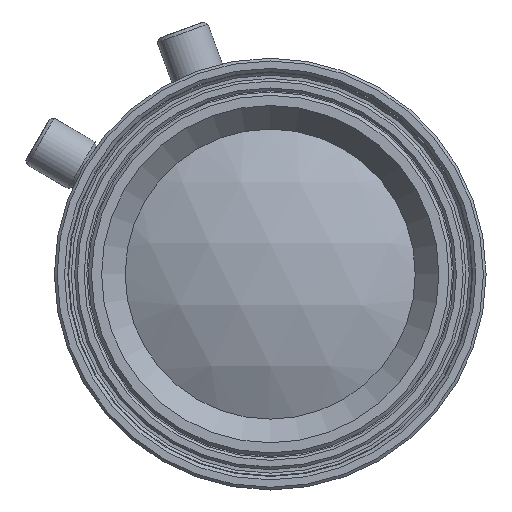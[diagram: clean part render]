
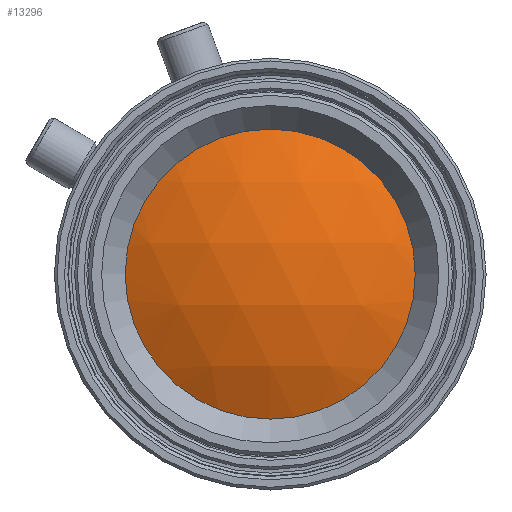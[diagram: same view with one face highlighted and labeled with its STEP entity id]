
A CAD part, left-side view. The second image highlights one B-rep face of the part: STEP entity #13296.
In plain terms, the highlighted spherical face has radius 23.386 mm.
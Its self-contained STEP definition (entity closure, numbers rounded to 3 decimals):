
#540=SPHERICAL_SURFACE('',#15523,23.386);
#2736=ORIENTED_EDGE('',*,*,#4750,.T.);
#4750=EDGE_CURVE('',#6117,#6117,#7304,.T.);
#6117=VERTEX_POINT('',#23801);
#7304=CIRCLE('',#15524,11.05);
#9057=EDGE_LOOP('',(#2736));
#11143=FACE_BOUND('',#9057,.T.);
#13296=ADVANCED_FACE('',(#11143),#540,.T.);
#15523=AXIS2_PLACEMENT_3D('',#23799,#19260,#19261);
#15524=AXIS2_PLACEMENT_3D('',#23800,#19262,#19263);
#19260=DIRECTION('',(0.,0.,1.));
#19261=DIRECTION('',(1.,0.,0.));
#19262=DIRECTION('',(-1.,0.,0.));
#19263=DIRECTION('',(0.,1.,0.));
#23799=CARTESIAN_POINT('',(-26.695,0.,0.));
#23800=CARTESIAN_POINT('',(-47.306,0.,0.));
#23801=CARTESIAN_POINT('',(-47.306,11.05,0.));
